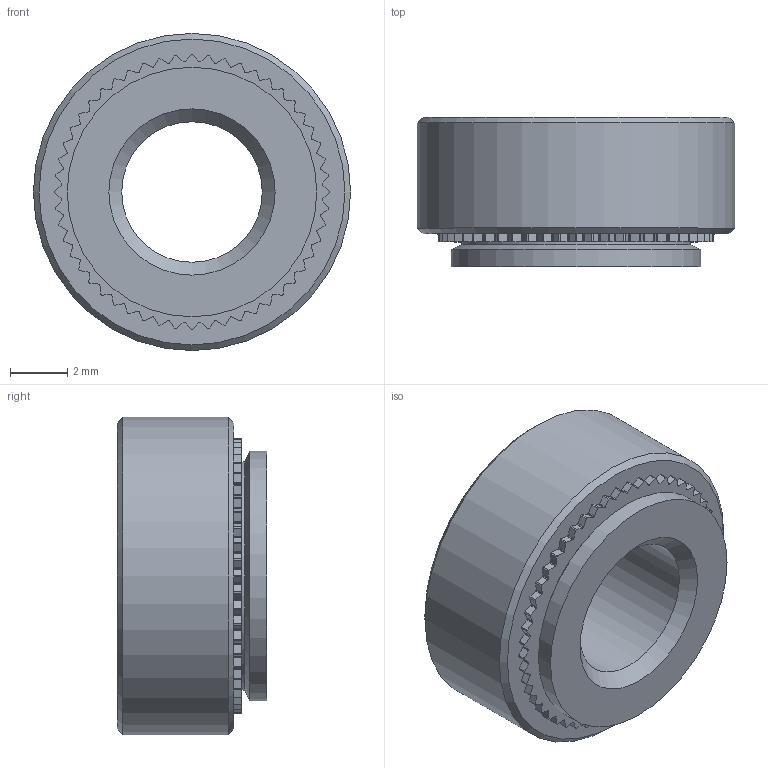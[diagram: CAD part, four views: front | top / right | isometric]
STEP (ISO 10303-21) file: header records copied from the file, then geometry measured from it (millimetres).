
FILE_DESCRIPTION(/* description */ (''),/* implementation_level */ '2;1');
FILE_NAME(/* name */ 'C:\Users\keval.kumar\Desktop\Fastit\Clinch nut\M6\Clinch Nut_M6_0.stp',/* time_stamp */ '2024-03-14T09:41:12+05:00',/* author */ ('keval.kumar'),/* organization */ (''),/* preprocessor_version */ 'ST-DEVELOPER v18.1',/* originating_system */ 'Autodesk Inventor 2022',/* authorisation */ '');
FILE_SCHEMA (('AUTOMOTIVE_DESIGN { 1 0 10303 214 3 1 1 }'));
Length unit declared in the file: millimetre
Products named in the file (1): Clinch Nut_M6_0
Bounding box: 11.1 x 5.23 x 11.1 mm (x, y, z)
Volume: 360.5 mm3; surface area: 412.8 mm2
Topology: 1 solids, 1 shells, 325 faces, 960 edges, 639 vertices
Faces by surface type: cylinder 212, plane 108, cone 5
Full cylindrical faces by diameter (mm): 4.917 x1, 8 x1, 8.733 x1, 11.1 x1
Entity records: 11088 total; most frequent: DIRECTION 2043, CARTESIAN_POINT 1925, ORIENTED_EDGE 1920, EDGE_CURVE 960, AXIS2_PLACEMENT_3D 757, VERTEX_POINT 639, LINE 529, VECTOR 529
